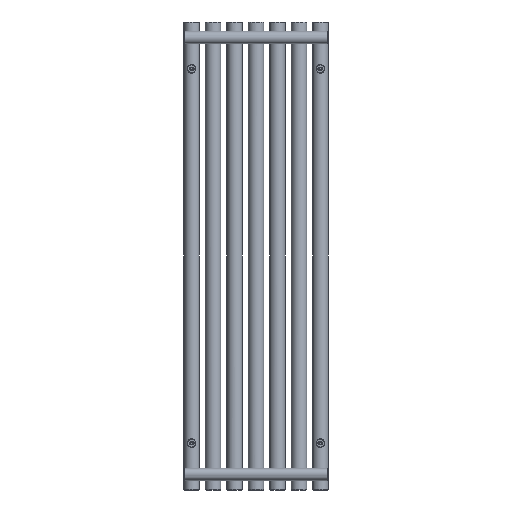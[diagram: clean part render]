
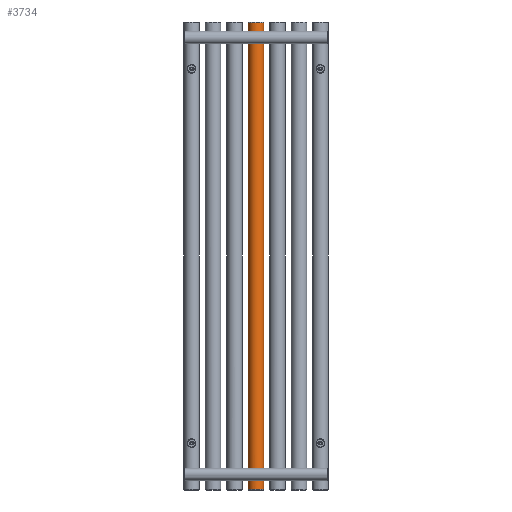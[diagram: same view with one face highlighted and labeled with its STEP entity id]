
A CAD part, front view. The second image highlights one B-rep face of the part: STEP entity #3734.
In plain terms, the highlighted cylindrical face has radius 20 mm (diameter 40 mm), a full revolution.
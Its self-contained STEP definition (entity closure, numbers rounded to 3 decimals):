
#241=FACE_BOUND('',#817,.T.);
#242=FACE_BOUND('',#818,.T.);
#243=FACE_BOUND('',#819,.T.);
#295=LINE('',#6944,#400);
#400=VECTOR('',#4652,20.);
#505=CYLINDRICAL_SURFACE('',#4027,20.);
#564=FACE_OUTER_BOUND('',#816,.T.);
#816=EDGE_LOOP('',(#2590,#2591,#2592,#2593,#2594));
#817=EDGE_LOOP('',(#2595));
#818=EDGE_LOOP('',(#2596));
#819=EDGE_LOOP('',(#2597));
#1110=B_SPLINE_CURVE_WITH_KNOTS('',3,(#6918,#6919,#6920,#6921,#6922,#6923,
#6924,#6925,#6926,#6927,#6928,#6929,#6930,#6931,#6932,#6933,#6934,#6935,
#6936,#6937,#6938),.UNSPECIFIED.,.T.,.F.,(4,1,1,1,1,1,1,1,1,1,1,1,1,1,1,
1,1,1,4),(-5.132,-4.765,-4.399,-4.154,
-3.91,-3.788,-3.666,-3.421,
-3.177,-2.933,-2.688,-2.199,
-1.955,-1.711,-1.466,-1.1,
-0.733,-0.367,0.),.UNSPECIFIED.);
#1111=B_SPLINE_CURVE_WITH_KNOTS('',3,(#6948,#6949,#6950,#6951,#6952,#6953,
#6954,#6955,#6956,#6957,#6958,#6959,#6960,#6961,#6962,#6963,#6964,#6965,
#6966,#6967),.UNSPECIFIED.,.T.,.F.,(4,1,1,1,1,1,1,1,1,1,1,1,1,1,1,1,1,4),
(-5.132,-4.765,-4.399,-3.91,
-3.788,-3.666,-3.421,-3.177,
-2.933,-2.444,-2.199,-1.955,-1.711,
-1.466,-1.1,-0.733,-0.367,
0.),.UNSPECIFIED.);
#1112=B_SPLINE_CURVE_WITH_KNOTS('',3,(#6969,#6970,#6971,#6972,#6973,#6974,
#6975,#6976,#6977,#6978,#6979,#6980,#6981,#6982,#6983,#6984,#6985,#6986,
#6987,#6988),.UNSPECIFIED.,.T.,.F.,(4,1,1,1,1,1,1,1,1,1,1,1,1,1,1,1,1,4),
(-6.15,-5.711,-5.272,-4.686,
-4.393,-4.32,-4.247,-4.1,
-3.514,-3.222,-2.929,-2.636,
-2.05,-1.757,-1.318,-0.879,
-0.439,0.),.UNSPECIFIED.);
#1193=CIRCLE('',#4028,20.);
#1194=CIRCLE('',#4029,20.);
#1195=CIRCLE('',#4030,20.);
#1574=VERTEX_POINT('',#6916);
#1575=VERTEX_POINT('',#6940);
#1576=VERTEX_POINT('',#6941);
#1577=VERTEX_POINT('',#6943);
#1578=VERTEX_POINT('',#6947);
#1579=VERTEX_POINT('',#6968);
#1990=EDGE_CURVE('',#1574,#1574,#1110,.T.);
#1991=EDGE_CURVE('',#1575,#1576,#1193,.T.);
#1992=EDGE_CURVE('',#1575,#1577,#295,.T.);
#1993=EDGE_CURVE('',#1577,#1577,#1194,.T.);
#1994=EDGE_CURVE('',#1576,#1575,#1195,.T.);
#1995=EDGE_CURVE('',#1578,#1578,#1111,.T.);
#1996=EDGE_CURVE('',#1579,#1579,#1112,.T.);
#2590=ORIENTED_EDGE('',*,*,#1991,.F.);
#2591=ORIENTED_EDGE('',*,*,#1992,.T.);
#2592=ORIENTED_EDGE('',*,*,#1993,.F.);
#2593=ORIENTED_EDGE('',*,*,#1992,.F.);
#2594=ORIENTED_EDGE('',*,*,#1994,.F.);
#2595=ORIENTED_EDGE('',*,*,#1995,.F.);
#2596=ORIENTED_EDGE('',*,*,#1996,.F.);
#2597=ORIENTED_EDGE('',*,*,#1990,.F.);
#3734=ADVANCED_FACE('',(#564,#241,#242,#243),#505,.T.);
#4027=AXIS2_PLACEMENT_3D('',#6939,#4648,#4649);
#4028=AXIS2_PLACEMENT_3D('',#6942,#4650,#4651);
#4029=AXIS2_PLACEMENT_3D('',#6945,#4653,#4654);
#4030=AXIS2_PLACEMENT_3D('',#6946,#4655,#4656);
#4648=DIRECTION('center_axis',(0.,0.,1.));
#4649=DIRECTION('ref_axis',(-1.,0.,0.));
#4650=DIRECTION('center_axis',(0.,0.,1.));
#4651=DIRECTION('ref_axis',(-1.,0.,0.));
#4652=DIRECTION('',(0.,0.,-1.));
#4653=DIRECTION('center_axis',(0.,0.,-1.));
#4654=DIRECTION('ref_axis',(-1.,0.,0.));
#4655=DIRECTION('center_axis',(0.,0.,1.));
#4656=DIRECTION('ref_axis',(-1.,0.,0.));
#6916=CARTESIAN_POINT('',(-165.,-20.,50.1));
#6918=CARTESIAN_POINT('Ctrl Pts',(-165.,-20.,50.1));
#6919=CARTESIAN_POINT('Ctrl Pts',(-166.611,-20.,50.1));
#6920=CARTESIAN_POINT('Ctrl Pts',(-169.837,-19.598,49.587));
#6921=CARTESIAN_POINT('Ctrl Pts',(-173.411,-18.224,47.307));
#6922=CARTESIAN_POINT('Ctrl Pts',(-175.379,-17.114,44.115));
#6923=CARTESIAN_POINT('Ctrl Pts',(-175.993,-16.707,41.396));
#6924=CARTESIAN_POINT('Ctrl Pts',(-175.992,-16.708,39.163));
#6925=CARTESIAN_POINT('Ctrl Pts',(-175.666,-16.921,36.968));
#6926=CARTESIAN_POINT('Ctrl Pts',(-174.649,-17.552,34.429));
#6927=CARTESIAN_POINT('Ctrl Pts',(-172.534,-18.592,32.083));
#6928=CARTESIAN_POINT('Ctrl Pts',(-169.761,-19.505,30.58));
#6929=CARTESIAN_POINT('Ctrl Pts',(-165.581,-20.198,29.637));
#6930=CARTESIAN_POINT('Ctrl Pts',(-161.165,-19.824,30.09));
#6931=CARTESIAN_POINT('Ctrl Pts',(-157.466,-18.588,32.082));
#6932=CARTESIAN_POINT('Ctrl Pts',(-155.351,-17.556,34.43));
#6933=CARTESIAN_POINT('Ctrl Pts',(-153.927,-16.66,37.98));
#6934=CARTESIAN_POINT('Ctrl Pts',(-153.922,-16.66,42.599));
#6935=CARTESIAN_POINT('Ctrl Pts',(-156.137,-18.052,47.027));
#6936=CARTESIAN_POINT('Ctrl Pts',(-160.165,-19.6,49.585));
#6937=CARTESIAN_POINT('Ctrl Pts',(-163.389,-20.,50.1));
#6938=CARTESIAN_POINT('Ctrl Pts',(-165.,-20.,50.1));
#6939=CARTESIAN_POINT('Origin',(-165.,0.,0.));
#6940=CARTESIAN_POINT('',(-145.,0.,1198.));
#6941=CARTESIAN_POINT('',(-185.,0.,1198.));
#6942=CARTESIAN_POINT('Origin',(-165.,0.,1198.));
#6943=CARTESIAN_POINT('',(-145.,0.,2.));
#6944=CARTESIAN_POINT('',(-145.,0.,0.));
#6945=CARTESIAN_POINT('Origin',(-165.,0.,2.));
#6946=CARTESIAN_POINT('Origin',(-165.,0.,1198.));
#6947=CARTESIAN_POINT('',(-165.,-20.,1170.1));
#6948=CARTESIAN_POINT('Ctrl Pts',(-165.,-20.,1170.1));
#6949=CARTESIAN_POINT('Ctrl Pts',(-166.611,-20.,1170.1));
#6950=CARTESIAN_POINT('Ctrl Pts',(-169.831,-19.61,1169.581));
#6951=CARTESIAN_POINT('Ctrl Pts',(-174.316,-17.862,1166.749));
#6952=CARTESIAN_POINT('Ctrl Pts',(-176.002,-16.691,1162.521));
#6953=CARTESIAN_POINT('Ctrl Pts',(-175.992,-16.709,1159.164));
#6954=CARTESIAN_POINT('Ctrl Pts',(-175.668,-16.917,1156.97));
#6955=CARTESIAN_POINT('Ctrl Pts',(-174.649,-17.554,1154.431));
#6956=CARTESIAN_POINT('Ctrl Pts',(-172.536,-18.588,1152.082));
#6957=CARTESIAN_POINT('Ctrl Pts',(-168.836,-19.819,1150.088));
#6958=CARTESIAN_POINT('Ctrl Pts',(-164.419,-20.201,1149.641));
#6959=CARTESIAN_POINT('Ctrl Pts',(-160.24,-19.502,1150.58));
#6960=CARTESIAN_POINT('Ctrl Pts',(-157.467,-18.59,1152.084));
#6961=CARTESIAN_POINT('Ctrl Pts',(-155.351,-17.552,1154.428));
#6962=CARTESIAN_POINT('Ctrl Pts',(-153.927,-16.66,1157.981));
#6963=CARTESIAN_POINT('Ctrl Pts',(-153.921,-16.659,1162.599));
#6964=CARTESIAN_POINT('Ctrl Pts',(-156.137,-18.052,1167.028));
#6965=CARTESIAN_POINT('Ctrl Pts',(-160.165,-19.6,1169.585));
#6966=CARTESIAN_POINT('Ctrl Pts',(-163.389,-20.,1170.1));
#6967=CARTESIAN_POINT('Ctrl Pts',(-165.,-20.,1170.1));
#6968=CARTESIAN_POINT('',(-175.476,17.037,1000.));
#6969=CARTESIAN_POINT('Ctrl Pts',(-175.476,17.037,1000.));
#6970=CARTESIAN_POINT('Ctrl Pts',(-175.476,17.037,1001.678));
#6971=CARTESIAN_POINT('Ctrl Pts',(-174.71,17.527,1005.001));
#6972=CARTESIAN_POINT('Ctrl Pts',(-171.469,19.119,1009.277));
#6973=CARTESIAN_POINT('Ctrl Pts',(-166.91,20.127,1011.233));
#6974=CARTESIAN_POINT('Ctrl Pts',(-163.388,19.971,1010.943));
#6975=CARTESIAN_POINT('Ctrl Pts',(-161.861,19.758,1010.505));
#6976=CARTESIAN_POINT('Ctrl Pts',(-160.87,19.581,1010.135));
#6977=CARTESIAN_POINT('Ctrl Pts',(-158.287,18.97,1008.808));
#6978=CARTESIAN_POINT('Ctrl Pts',(-155.768,17.791,1005.96));
#6979=CARTESIAN_POINT('Ctrl Pts',(-154.484,17.016,1001.706));
#6980=CARTESIAN_POINT('Ctrl Pts',(-154.483,17.014,998.292));
#6981=CARTESIAN_POINT('Ctrl Pts',(-155.768,17.795,994.038));
#6982=CARTESIAN_POINT('Ctrl Pts',(-158.647,19.134,990.784));
#6983=CARTESIAN_POINT('Ctrl Pts',(-163.072,20.044,988.907));
#6984=CARTESIAN_POINT('Ctrl Pts',(-167.481,20.04,988.913));
#6985=CARTESIAN_POINT('Ctrl Pts',(-171.783,18.95,991.159));
#6986=CARTESIAN_POINT('Ctrl Pts',(-174.716,17.532,994.996));
#6987=CARTESIAN_POINT('Ctrl Pts',(-175.476,17.037,998.322));
#6988=CARTESIAN_POINT('Ctrl Pts',(-175.476,17.037,1000.));
